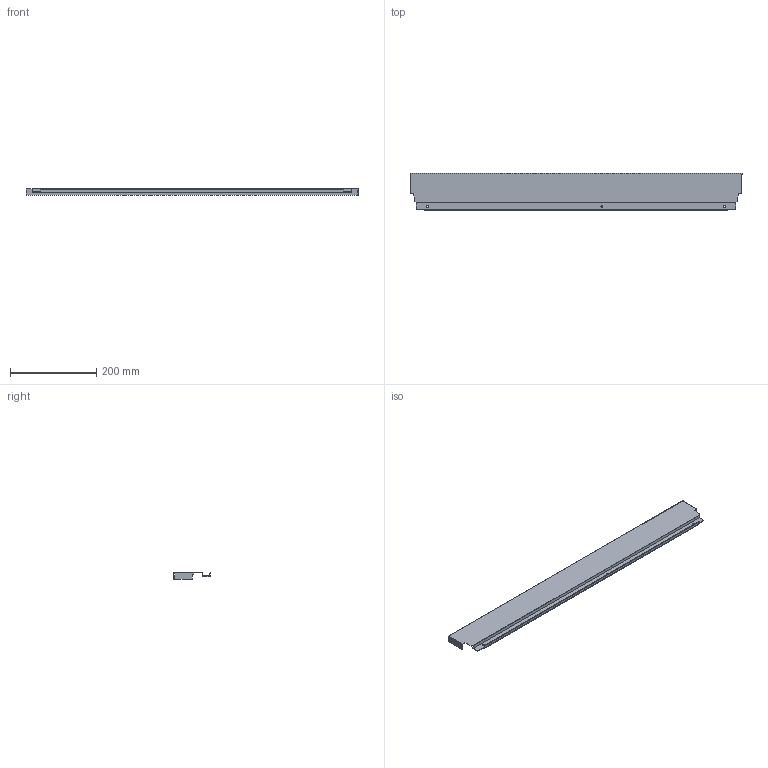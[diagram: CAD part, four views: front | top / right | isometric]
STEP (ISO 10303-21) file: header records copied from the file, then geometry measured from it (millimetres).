
FILE_DESCRIPTION (( 'STEP AP214' ), '1' );
FILE_NAME ('_DWD_XP Stahlrückwand_H86_KAB850_S16.step', '2010-07-08T12:10:00', ( 'grass' ), ( '' ), 'SwSTEP 2.0', 'SolidWorks 2010', '' );
FILE_SCHEMA (( 'AUTOMOTIVE_DESIGN' ));
Length unit declared in the file: millimetre
Products named in the file (1): _DWD_XP Stahlrückwand_H86_KAB850_S16
Bounding box: 769 x 85.79 x 16 mm (x, y, z)
Volume: 82349.7 mm3; surface area: 178850.9 mm2
Topology: 1 solids, 1 shells, 50 faces, 144 edges, 96 vertices
Faces by surface type: plane 44, cylinder 6
Entity records: 1666 total; most frequent: CARTESIAN_POINT 291, ORIENTED_EDGE 288, DIRECTION 258, EDGE_CURVE 144, VECTOR 132, LINE 132, VERTEX_POINT 96, AXIS2_PLACEMENT_3D 63
